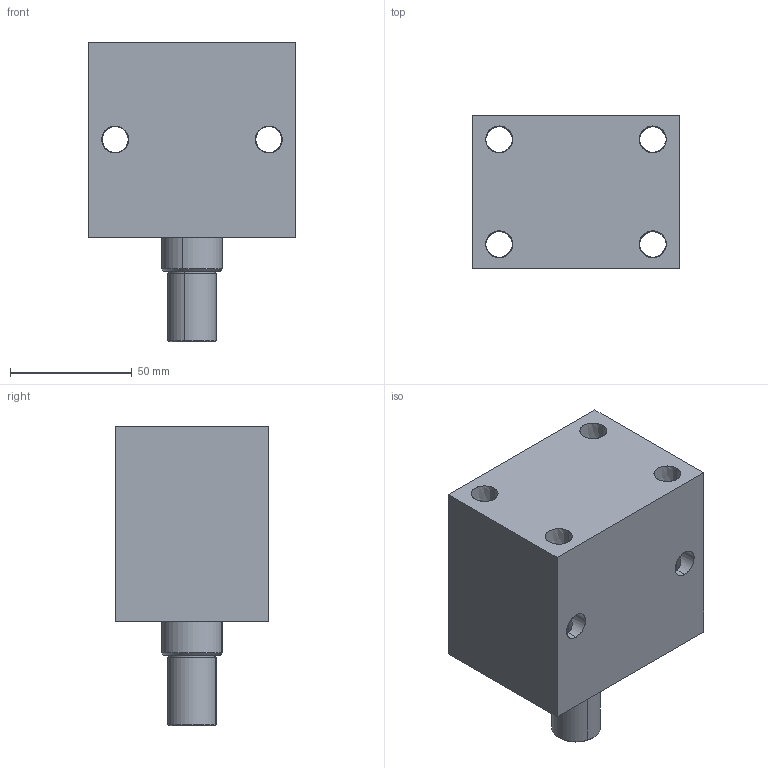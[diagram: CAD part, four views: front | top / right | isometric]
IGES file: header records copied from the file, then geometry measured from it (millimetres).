
Start section: SolidWorks IGES file using analytic representation for surfaces
Global section: file name: D:\karuppas\Clasp\3D model\Block cylinder B01C-Male thread - Copy\B01C-325M\Block cylinder_B01C-325M.IGS; native system: SolidWorks 2017; preprocessor: SolidWorks 2017; author: pc; date: 220709.234104; units: millimetre
Bounding box: 85 x 63 x 123 mm (x, y, z)
Surface area: 59733 mm2 (no closed solid volume)
Topology: 0 solids, 0 shells, 357 faces, 5457 edges, 5453 vertices
Faces by surface type: bspline 303, revolution 54
